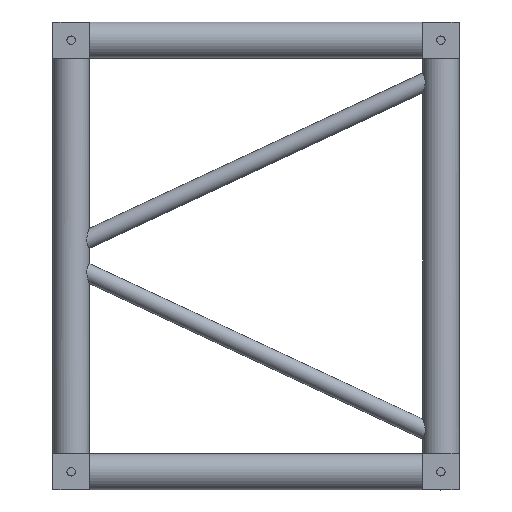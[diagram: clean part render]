
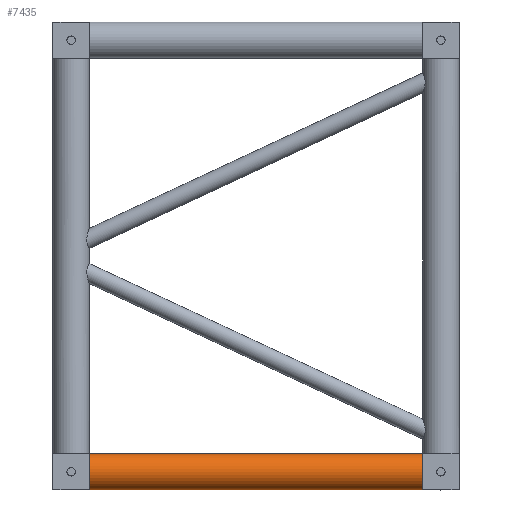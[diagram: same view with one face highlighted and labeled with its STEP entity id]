
A CAD part, left-side view. The second image highlights one B-rep face of the part: STEP entity #7435.
In plain terms, the highlighted cylindrical face has radius 30 mm (diameter 60 mm), a full revolution.
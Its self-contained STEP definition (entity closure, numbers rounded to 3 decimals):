
#1509=FACE_BOUND('',#2092,.T.);
#1657=FACE_OUTER_BOUND('',#2091,.T.);
#2091=EDGE_LOOP('',(#4779,#4780,#4781,#4782));
#2092=EDGE_LOOP('',(#4783,#4784,#4785,#4786));
#2659=CIRCLE('',#7887,30.);
#2660=CIRCLE('',#7888,30.);
#2661=CIRCLE('',#7889,30.);
#2662=CIRCLE('',#7890,30.);
#2663=CIRCLE('',#7891,30.);
#2664=CIRCLE('',#7892,30.);
#2665=CIRCLE('',#7893,30.);
#2666=CIRCLE('',#7894,30.);
#3023=VERTEX_POINT('',#11236);
#3024=VERTEX_POINT('',#11237);
#3025=VERTEX_POINT('',#11239);
#3026=VERTEX_POINT('',#11241);
#3027=VERTEX_POINT('',#11244);
#3028=VERTEX_POINT('',#11245);
#3029=VERTEX_POINT('',#11247);
#3030=VERTEX_POINT('',#11249);
#3721=EDGE_CURVE('',#3023,#3024,#2659,.T.);
#3722=EDGE_CURVE('',#3025,#3023,#2660,.T.);
#3723=EDGE_CURVE('',#3026,#3025,#2661,.T.);
#3724=EDGE_CURVE('',#3024,#3026,#2662,.T.);
#3725=EDGE_CURVE('',#3027,#3028,#2663,.T.);
#3726=EDGE_CURVE('',#3029,#3027,#2664,.T.);
#3727=EDGE_CURVE('',#3030,#3029,#2665,.T.);
#3728=EDGE_CURVE('',#3028,#3030,#2666,.T.);
#4779=ORIENTED_EDGE('',*,*,#3721,.F.);
#4780=ORIENTED_EDGE('',*,*,#3722,.F.);
#4781=ORIENTED_EDGE('',*,*,#3723,.F.);
#4782=ORIENTED_EDGE('',*,*,#3724,.F.);
#4783=ORIENTED_EDGE('',*,*,#3725,.F.);
#4784=ORIENTED_EDGE('',*,*,#3726,.F.);
#4785=ORIENTED_EDGE('',*,*,#3727,.F.);
#4786=ORIENTED_EDGE('',*,*,#3728,.F.);
#6821=CYLINDRICAL_SURFACE('',#7886,30.);
#7435=ADVANCED_FACE('',(#1657,#1509),#6821,.T.);
#7886=AXIS2_PLACEMENT_3D('',#11235,#8862,#8863);
#7887=AXIS2_PLACEMENT_3D('',#11238,#8864,#8865);
#7888=AXIS2_PLACEMENT_3D('',#11240,#8866,#8867);
#7889=AXIS2_PLACEMENT_3D('',#11242,#8868,#8869);
#7890=AXIS2_PLACEMENT_3D('',#11243,#8870,#8871);
#7891=AXIS2_PLACEMENT_3D('',#11246,#8872,#8873);
#7892=AXIS2_PLACEMENT_3D('',#11248,#8874,#8875);
#7893=AXIS2_PLACEMENT_3D('',#11250,#8876,#8877);
#7894=AXIS2_PLACEMENT_3D('',#11251,#8878,#8879);
#8862=DIRECTION('center_axis',(0.,1.,0.));
#8863=DIRECTION('ref_axis',(-0.934,0.,0.358));
#8864=DIRECTION('center_axis',(0.,1.,0.));
#8865=DIRECTION('ref_axis',(-0.934,0.,0.358));
#8866=DIRECTION('center_axis',(0.,1.,0.));
#8867=DIRECTION('ref_axis',(-0.934,0.,0.358));
#8868=DIRECTION('center_axis',(0.,1.,0.));
#8869=DIRECTION('ref_axis',(-0.934,0.,0.358));
#8870=DIRECTION('center_axis',(0.,1.,0.));
#8871=DIRECTION('ref_axis',(-0.934,0.,0.358));
#8872=DIRECTION('center_axis',(0.,-1.,0.));
#8873=DIRECTION('ref_axis',(-0.934,0.,0.358));
#8874=DIRECTION('center_axis',(0.,-1.,0.));
#8875=DIRECTION('ref_axis',(-0.934,0.,0.358));
#8876=DIRECTION('center_axis',(0.,-1.,0.));
#8877=DIRECTION('ref_axis',(-0.934,0.,0.358));
#8878=DIRECTION('center_axis',(0.,-1.,0.));
#8879=DIRECTION('ref_axis',(-0.934,0.,0.358));
#11235=CARTESIAN_POINT('Origin',(237.779,383.873,540.121));
#11236=CARTESIAN_POINT('',(267.779,933.873,540.121));
#11237=CARTESIAN_POINT('',(237.779,933.873,510.121));
#11238=CARTESIAN_POINT('Origin',(237.779,933.873,540.121));
#11239=CARTESIAN_POINT('',(237.779,933.873,570.121));
#11240=CARTESIAN_POINT('Origin',(237.779,933.873,540.121));
#11241=CARTESIAN_POINT('',(207.779,933.873,540.121));
#11242=CARTESIAN_POINT('Origin',(237.779,933.873,540.121));
#11243=CARTESIAN_POINT('Origin',(237.779,933.873,540.121));
#11244=CARTESIAN_POINT('',(237.779,383.873,510.121));
#11245=CARTESIAN_POINT('',(267.779,383.873,540.121));
#11246=CARTESIAN_POINT('Origin',(237.779,383.873,540.121));
#11247=CARTESIAN_POINT('',(207.779,383.873,540.121));
#11248=CARTESIAN_POINT('Origin',(237.779,383.873,540.121));
#11249=CARTESIAN_POINT('',(237.779,383.873,570.121));
#11250=CARTESIAN_POINT('Origin',(237.779,383.873,540.121));
#11251=CARTESIAN_POINT('Origin',(237.779,383.873,540.121));
